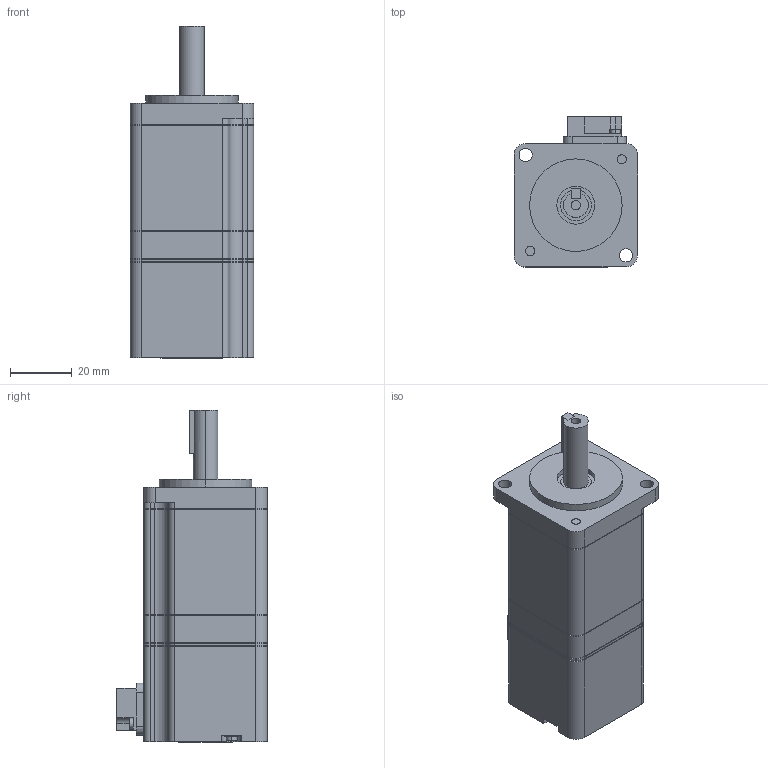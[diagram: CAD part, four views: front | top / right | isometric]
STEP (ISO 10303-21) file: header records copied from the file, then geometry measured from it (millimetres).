
FILE_DESCRIPTION (( 'STEP AP203' ), '1' );
FILE_NAME ('sgmjv_01a_a61.STEP', '2008-06-10T12:01:56', ( 'T' ), ( 'T' ), 'SwSTEP 2.0', 'SolidWorks 2006052', '' );
FILE_SCHEMA (( 'CONFIG_CONTROL_DESIGN' ));
Length unit declared in the file: millimetre
Products named in the file (3): sgmjv_01a_a61_base; sgmjv_01a_a61_key; sgmjv_01a_a61
Assembly tree (2 placements, depth 2):
  sgmjv_01a_a61
    sgmjv_01a_a61_base
    sgmjv_01a_a61_key
Bounding box: 40.1 x 48.8 x 107.6 mm (x, y, z)
Volume: 125744.9 mm3; surface area: 18335.8 mm2
Topology: 2 solids, 2 shells, 297 faces, 782 edges, 520 vertices
Faces by surface type: plane 170, cylinder 127
Entity records: 9556 total; most frequent: DIRECTION 1635, CARTESIAN_POINT 1634, ORIENTED_EDGE 1564, EDGE_CURVE 782, AXIS2_PLACEMENT_3D 555, VECTOR 525, LINE 525, VERTEX_POINT 520
